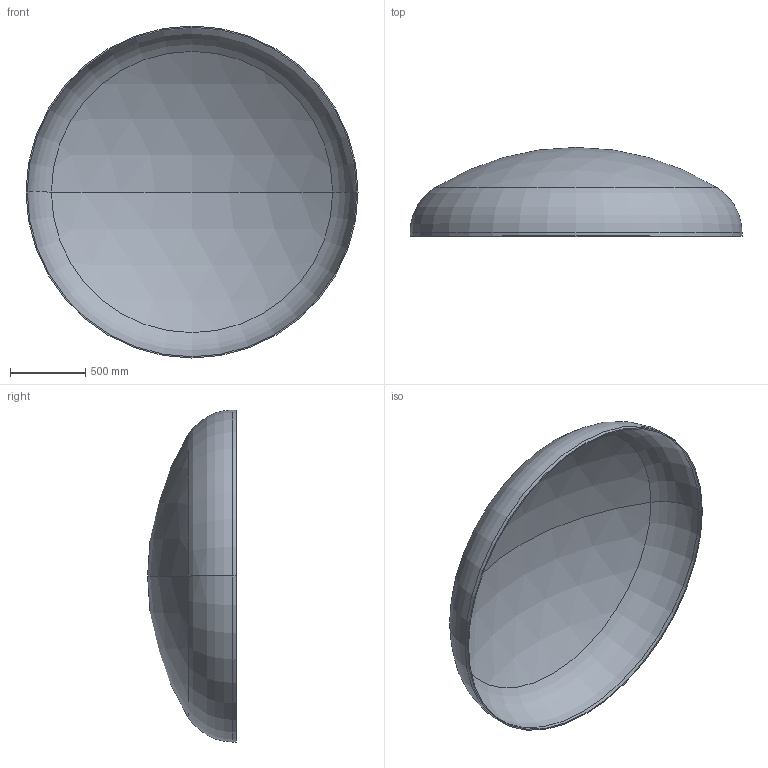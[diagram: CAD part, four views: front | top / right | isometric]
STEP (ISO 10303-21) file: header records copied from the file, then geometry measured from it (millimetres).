
FILE_DESCRIPTION (( 'STEP AP203' ), '1' );
FILE_NAME ('DIN 28013 Korbbogenform_-_Boden DIN 28013 - 2200 x 25 - I - s=8.step', '2016-07-01T14:17:19', ( '' ), ( '' ), 'SwSTEP 2.0', 'SolidWorks 2013', '' );
FILE_SCHEMA (( 'CONFIG_CONTROL_DESIGN' ));
Length unit declared in the file: millimetre
Products named in the file (1): DIN 28013 Korbbogenform_-_Boden DIN 28013 - 2200 x 25 - I - s=8
Bounding box: 2200 x 588.47 x 2200 mm (x, y, z)
Volume: 43324843.1 mm3; surface area: 10886431.4 mm2
Topology: 1 solids, 1 shells, 13 faces, 24 edges, 14 vertices
Faces by surface type: torus 4, cylinder 4, sphere 4, plane 1
Entity records: 407 total; most frequent: DIRECTION 72, CARTESIAN_POINT 52, ORIENTED_EDGE 48, AXIS2_PLACEMENT_3D 34, EDGE_CURVE 24, CIRCLE 20, EDGE_LOOP 14, VERTEX_POINT 14
